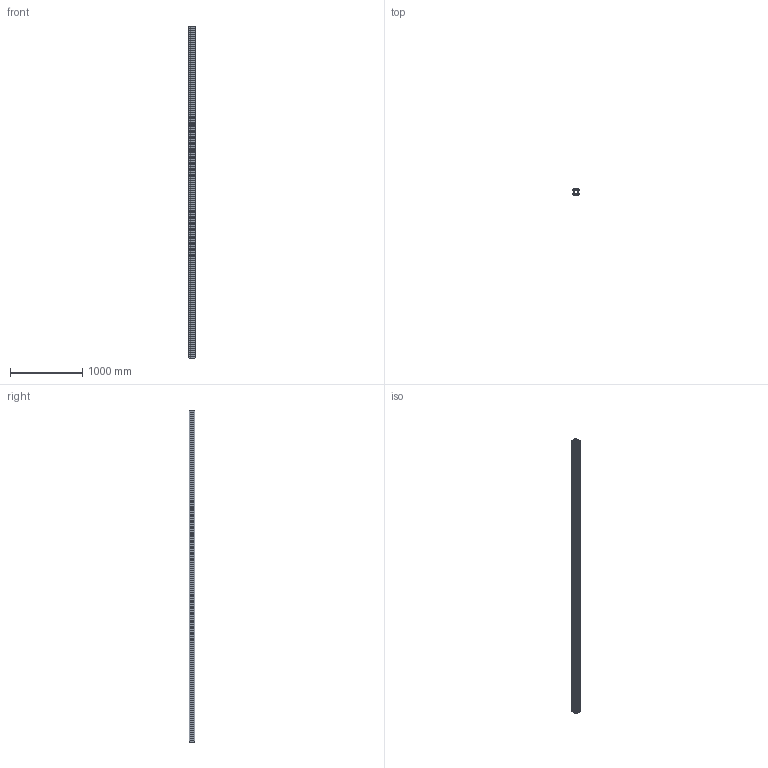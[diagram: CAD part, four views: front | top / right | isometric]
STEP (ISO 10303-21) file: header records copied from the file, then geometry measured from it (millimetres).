
FILE_DESCRIPTION (( 'STEP AP203' ), '1' );
FILE_NAME ('_-_MLF 4 4598 mm lang.step', '2005-09-01T12:47:13', ( ' ' ), ( ' ' ), 'SwSTEP 2.0', 'SolidWorks 2005187', '' );
FILE_SCHEMA (( 'CONFIG_CONTROL_DESIGN' ));
Length unit declared in the file: millimetre
Products named in the file (1): _-_MLF 4  4598 mm lang
Bounding box: 87.56 x 80 x 4598 mm (x, y, z)
Volume: 10594804.7 mm3; surface area: 5677093.3 mm2
Topology: 1 solids, 1 shells, 248 faces, 762 edges, 500 vertices
Faces by surface type: plane 174, cylinder 74
Entity records: 8575 total; most frequent: ORIENTED_EDGE 1524, CARTESIAN_POINT 1511, DIRECTION 1408, EDGE_CURVE 762, VECTOR 614, LINE 614, VERTEX_POINT 500, AXIS2_PLACEMENT_3D 397
